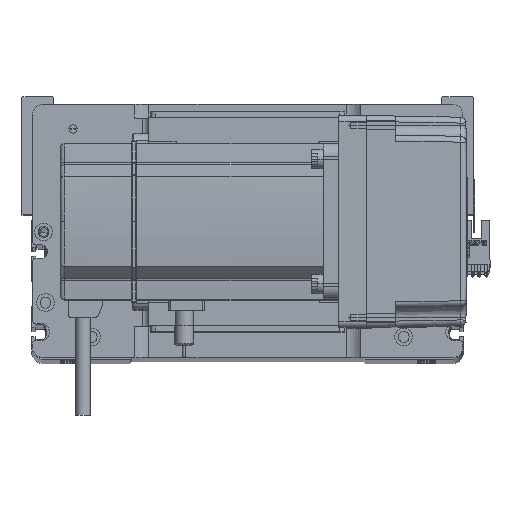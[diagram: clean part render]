
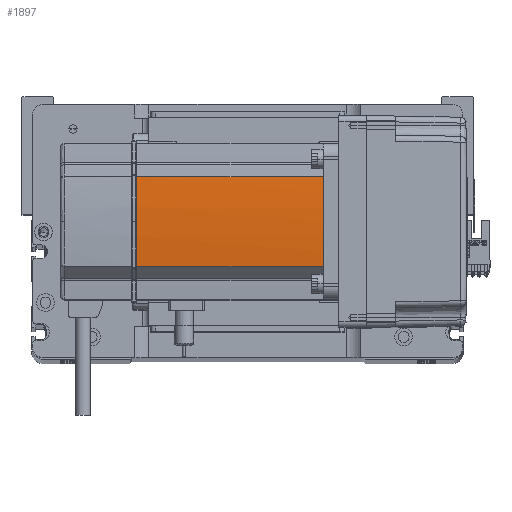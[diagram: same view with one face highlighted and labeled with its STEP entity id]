
A CAD part, top view. The second image highlights one B-rep face of the part: STEP entity #1897.
In plain terms, the highlighted cylindrical face has radius 270 mm (diameter 540 mm), a partial arc.
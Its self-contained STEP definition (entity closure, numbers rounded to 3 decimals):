
#905 = CARTESIAN_POINT ( 'NONE',  ( 230., 0., 39. ) ) ;
#1162 = FACE_OUTER_BOUND ( 'NONE', #16995, .T. ) ;
#1897 = ADVANCED_FACE ( 'NONE', ( #1162 ), #33695, .T. ) ;
#3873 = CIRCLE ( 'NONE', #9334, 270. ) ;
#4028 = DIRECTION ( 'NONE',  ( 0., 0., 1. ) ) ;
#4226 = ORIENTED_EDGE ( 'NONE', *, *, #8504, .T. ) ;
#5045 = VERTEX_POINT ( 'NONE', #30404 ) ;
#7588 = CARTESIAN_POINT ( 'NONE',  ( -39.042, -22.724, 0. ) ) ;
#8504 = EDGE_CURVE ( 'NONE', #31026, #5045, #17670, .T. ) ;
#9191 = EDGE_CURVE ( 'NONE', #5045, #9653, #37453, .T. ) ;
#9334 = AXIS2_PLACEMENT_3D ( 'NONE', #41640, #42011, #17206 ) ;
#9653 = VERTEX_POINT ( 'NONE', #44989 ) ;
#10046 = ORIENTED_EDGE ( 'NONE', *, *, #14609, .T. ) ;
#11702 = CARTESIAN_POINT ( 'NONE',  ( -39.042, -22.724, 134. ) ) ;
#13064 = CARTESIAN_POINT ( 'NONE',  ( -39.042, -22.724, 39. ) ) ;
#14609 = EDGE_CURVE ( 'NONE', #23833, #42422, #26366, .T. ) ;
#15040 = DIRECTION ( 'NONE',  ( 0., 0., -1. ) ) ;
#15225 = CARTESIAN_POINT ( 'NONE',  ( 230., 0., 134. ) ) ;
#16995 = EDGE_LOOP ( 'NONE', ( #46706, #4226, #42925, #41108, #10046 ) ) ;
#17130 = DIRECTION ( 'NONE',  ( 1., 0., 0. ) ) ;
#17206 = DIRECTION ( 'NONE',  ( 1., 0., 0. ) ) ;
#17670 = CIRCLE ( 'NONE', #28140, 270. ) ;
#18370 = CARTESIAN_POINT ( 'NONE',  ( -39.042, 22.724, 0. ) ) ;
#20621 = DIRECTION ( 'NONE',  ( 1., 0., 0. ) ) ;
#23833 = VERTEX_POINT ( 'NONE', #13064 ) ;
#25127 = VECTOR ( 'NONE', #36134, 1000. ) ;
#25172 = AXIS2_PLACEMENT_3D ( 'NONE', #48590, #4028, #20621 ) ;
#26366 = LINE ( 'NONE', #7588, #25127 ) ;
#27319 = DIRECTION ( 'NONE',  ( 1., 0., 0. ) ) ;
#28140 = AXIS2_PLACEMENT_3D ( 'NONE', #15225, #15040, #27319 ) ;
#30404 = CARTESIAN_POINT ( 'NONE',  ( -39.042, 22.724, 134. ) ) ;
#31026 = VERTEX_POINT ( 'NONE', #32474 ) ;
#32474 = CARTESIAN_POINT ( 'NONE',  ( -40., 0., 134. ) ) ;
#33695 = CYLINDRICAL_SURFACE ( 'NONE', #25172, 270. ) ;
#36134 = DIRECTION ( 'NONE',  ( 0., 0., 1. ) ) ;
#37453 = LINE ( 'NONE', #18370, #42518 ) ;
#37516 = AXIS2_PLACEMENT_3D ( 'NONE', #905, #40667, #17130 ) ;
#38176 = EDGE_CURVE ( 'NONE', #23833, #9653, #45772, .T. ) ;
#40667 = DIRECTION ( 'NONE',  ( 0., 0., -1. ) ) ;
#41108 = ORIENTED_EDGE ( 'NONE', *, *, #38176, .F. ) ;
#41640 = CARTESIAN_POINT ( 'NONE',  ( 230., 0., 134. ) ) ;
#42011 = DIRECTION ( 'NONE',  ( 0., 0., -1. ) ) ;
#42422 = VERTEX_POINT ( 'NONE', #11702 ) ;
#42518 = VECTOR ( 'NONE', #46887, 1000. ) ;
#42519 = EDGE_CURVE ( 'NONE', #42422, #31026, #3873, .T. ) ;
#42925 = ORIENTED_EDGE ( 'NONE', *, *, #9191, .T. ) ;
#44989 = CARTESIAN_POINT ( 'NONE',  ( -39.042, 22.724, 39. ) ) ;
#45772 = CIRCLE ( 'NONE', #37516, 270. ) ;
#46706 = ORIENTED_EDGE ( 'NONE', *, *, #42519, .T. ) ;
#46887 = DIRECTION ( 'NONE',  ( 0., 0., -1. ) ) ;
#48590 = CARTESIAN_POINT ( 'NONE',  ( 230., 0., 0. ) ) ;
